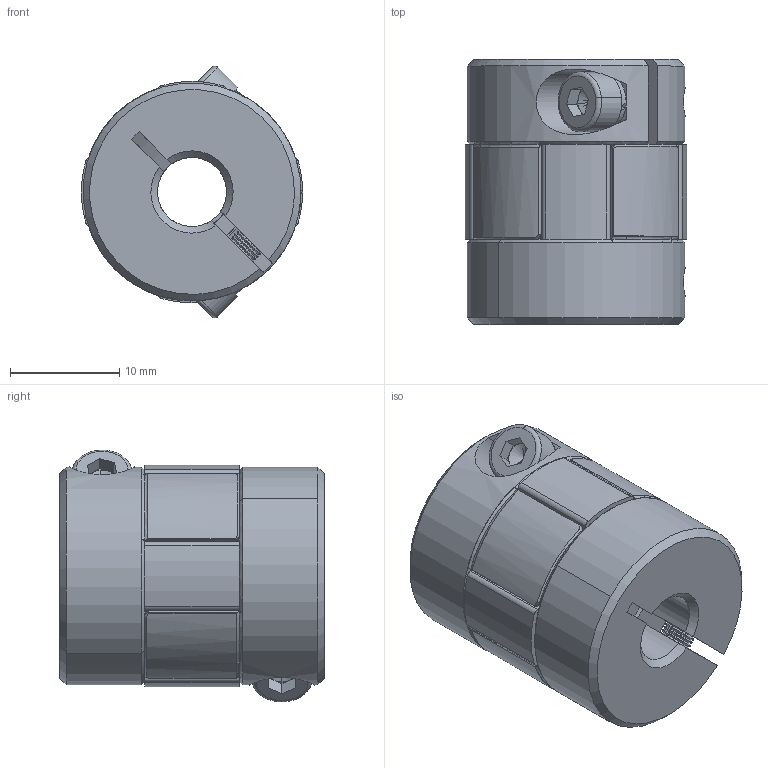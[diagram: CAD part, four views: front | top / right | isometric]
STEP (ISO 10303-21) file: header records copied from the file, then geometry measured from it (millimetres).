
FILE_DESCRIPTION (( 'STEP AP203' ), '1' );
FILE_NAME ('LF-B-D20L25-6.35-6.35.STEP', '2021-10-20T01:50:24', ( '' ), ( '' ), 'SwSTEP 2.0', 'SolidWorks 2018', '' );
FILE_SCHEMA (( 'CONFIG_CONTROL_DESIGN' ));
Length unit declared in the file: millimetre
Products named in the file (1): LF-B-D20L25-6.35-6.35
Bounding box: 20.31 x 24.3 x 23.09 mm (x, y, z)
Volume: 6546 mm3; surface area: 3569.3 mm2
Topology: 1 solids, 1 shells, 431 faces, 1076 edges, 637 vertices
Faces by surface type: cylinder 167, cone 158, plane 94, torus 12
Entity records: 13178 total; most frequent: CARTESIAN_POINT 2731, DIRECTION 2331, ORIENTED_EDGE 2144, EDGE_CURVE 1072, AXIS2_PLACEMENT_3D 959, VERTEX_POINT 637, CIRCLE 527, EDGE_LOOP 447
